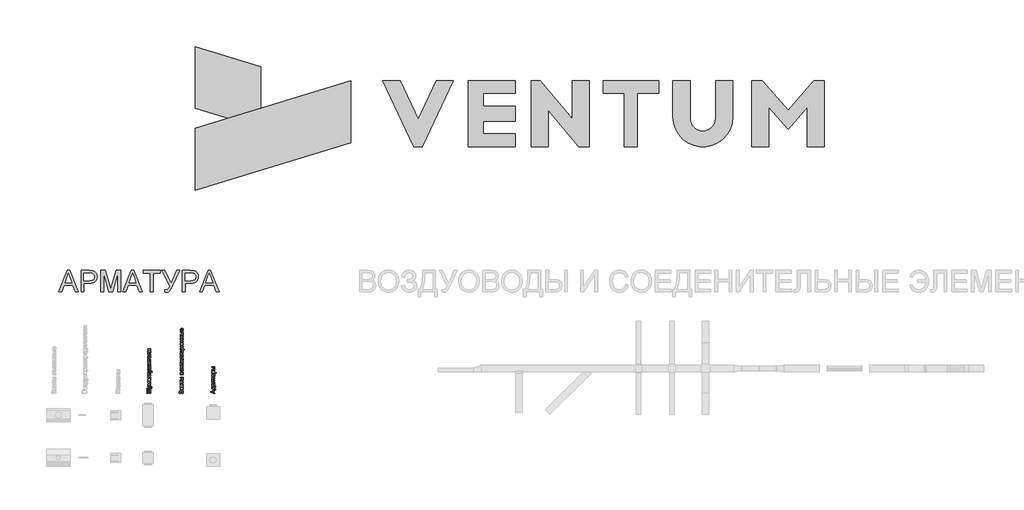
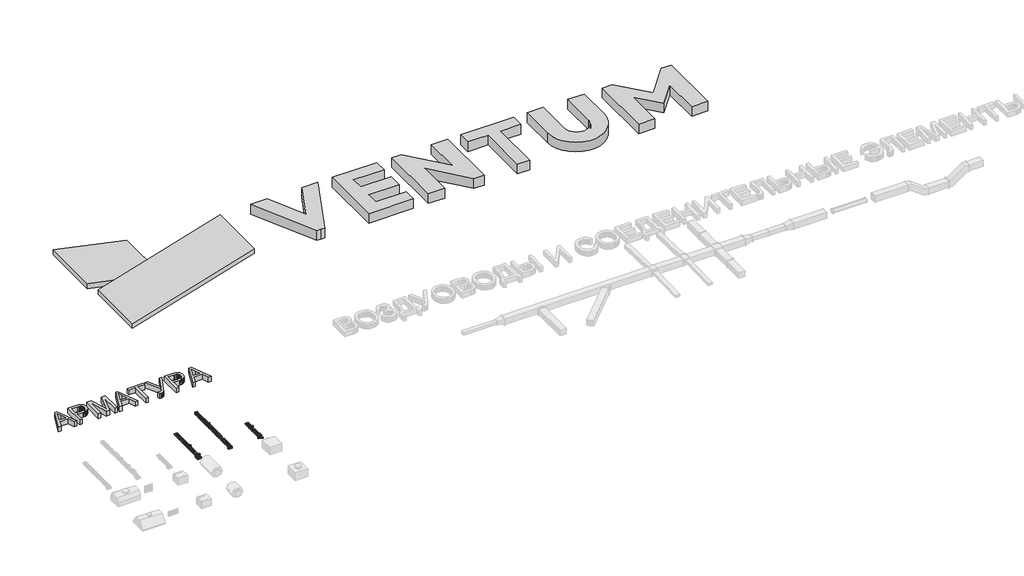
# One storey, part 7 of 8: 5 proxies.
"""IFC4 building model written with IfcOpenShell, lengths in millimetres."""

from ifc_helpers import new_model, si_unit, origin, origin_with_axes, place, context, project, spatial, polyline, outline, extrude, transform, mapped, element, save
from components import generic_models_62431cef

model = new_model("IFC4")

# Units and contexts
model_context = context("Model", 3, world=origin())
ifc_project = project(units=[si_unit("LENGTHUNIT", "METRE", prefix="MILLI")], contexts=[model_context])

# Site, building, storey
site = spatial("IfcSite", under=ifc_project)
building = spatial("IfcBuilding", under=site)
storey = spatial("IfcBuildingStorey", under=building, Name="Уровень 1", Elevation=0.0)

# Proxies
placement = place(None, origin())
element("IfcBuildingElementProxy", 1, Name="1000 мм Arial", ObjectType="1000 мм Arial", at=placement, inside=storey, context=model_context, shape_type="SweptSolid", body=[
    extrude(outline(polyline([(-67805.6436898, 36102.2722576), (-67404.652315, 37106.8353591), (-67297.7212818, 37106.8353591), (-66896.729907, 36102.2722576), (-67029.4126799, 36102.2722576), (-67144.4371171, 36416.1982268), (-67558.1817343, 36416.1982268), (-67672.9609168, 36102.2722576), (-67805.6436898, 36102.2722576)]), holes=[polyline([(-67512.0738576, 36541.7686145), (-67190.2997392, 36541.7686145), (-67280.79871, 36788.7400606), (-67351.1867984, 36981.2649714), (-67413.7267376, 36810.3224709), (-67512.0738576, 36541.7686145)])]), origin_with_axes(), (0.0, 0.0, 1.0), 250.0),
    extrude(outline(polyline([(-66762.5756061, 36102.2722576), (-66762.5756061, 37106.8353591), (-66390.279027, 37106.8353591), (-66303.5815035, 37104.4441261), (-66240.183173, 37097.2704272), (-66205.2420476, 37089.7365105), (-66173.2593067, 37079.3974936), (-66144.2349501, 37066.2533765), (-66118.1689779, 37050.3041591), (-66094.7854786, 37031.2202806), (-66073.8085406, 37008.67218), (-66055.2381641, 36982.6598573), (-66039.0743489, 36953.1833124), (-66025.9838813, 36921.2158999), (-66016.6335472, 36887.7309741), (-66011.0233468, 36852.7285351), (-66009.15328, 36816.2085829), (-66014.2039932, 36754.5423634), (-66029.3561329, 36697.8118941), (-66054.609699, 36646.0171748), (-66089.9646916, 36599.1582057), (-66112.2004757, 36578.3498804), (-66138.5021223, 36560.3159984), (-66168.8696314, 36545.0565598), (-66203.3030029, 36532.5715646), (-66241.8022369, 36522.8610128), (-66284.3673334, 36515.9249043), (-66381.6951138, 36510.3760175), (-66637.0052184, 36510.3760175), (-66637.0052184, 36102.2722576), (-66762.5756061, 36102.2722576)]), holes=[polyline([(-66637.0052184, 36635.9464052), (-66374.3374739, 36635.9464052), (-66313.943513, 36638.8281475), (-66262.9918567, 36647.4733744), (-66221.4825049, 36661.8820859), (-66189.4154576, 36682.054282), (-66165.4877995, 36707.453468), (-66148.3966152, 36737.5431496), (-66138.1419045, 36772.3233265), (-66134.7236677, 36811.7939989), (-66136.7393544, 36841.1019312), (-66142.7864147, 36868.2025715), (-66152.8648486, 36893.0959199), (-66166.9746559, 36915.7819762), (-66184.3647444, 36935.5249766), (-66204.2840216, 36951.5891571), (-66226.7324875, 36963.9745176), (-66251.7101421, 36972.6810581), (-66300.1479382, 36979.1189931), (-66377.2805298, 36981.2649714), (-66637.0052184, 36981.2649714), (-66637.0052184, 36635.9464052)])]), origin_with_axes(), (0.0, 0.0, 1.0), 250.0),
    extrude(outline(polyline([(-65836.4939969, 36102.2722576), (-65836.4939969, 37106.8353591), (-65620.4246384, 37106.8353591), (-65414.9012304, 36398.7851457), (-65373.4531923, 36250.8965836), (-65328.5715889, 36411.0478788), (-65126.4817462, 37106.8353591), (-64910.4123877, 37106.8353591), (-64910.4123877, 36102.2722576), (-65035.9827754, 36102.2722576), (-65035.9827754, 36981.2649714), (-65288.3498241, 36102.2722576), (-65458.5565605, 36102.2722576), (-65710.9236092, 36981.2649714), (-65710.9236092, 36102.2722576), (-65836.4939969, 36102.2722576)])), origin_with_axes(), (0.0, 0.0, 1.0), 250.0),
    extrude(outline(polyline([(-64807.6506837, 36102.2722576), (-64406.659309, 37106.8353591), (-64299.7282757, 37106.8353591), (-63898.736901, 36102.2722576), (-64031.4196739, 36102.2722576), (-64146.4441111, 36416.1982268), (-64560.1887283, 36416.1982268), (-64674.9679108, 36102.2722576), (-64807.6506837, 36102.2722576)]), holes=[polyline([(-64514.0808516, 36541.7686145), (-64192.3067331, 36541.7686145), (-64282.805704, 36788.7400606), (-64353.1937924, 36981.2649714), (-64415.7337315, 36810.3224709), (-64514.0808516, 36541.7686145)])]), origin_with_axes(), (0.0, 0.0, 1.0), 250.0),
    extrude(outline(polyline([(-63513.4418247, 36102.2722576), (-63513.4418247, 36981.2649714), (-63843.0640924, 36981.2649714), (-63843.0640924, 37106.8353591), (-63058.2491693, 37106.8353591), (-63058.2491693, 36981.2649714), (-63387.871437, 36981.2649714), (-63387.871437, 36102.2722576), (-63513.4418247, 36102.2722576)])), origin_with_axes(), (0.0, 0.0, 1.0), 250.0),
    extrude(outline(polyline([(-62987.6158263, 37106.8353591), (-62848.5564321, 37106.8353591), (-62548.1194694, 36511.8475455), (-62277.8488302, 37106.8353591), (-62140.0157094, 37106.8353591), (-62521.3867111, 36324.227728), (-62578.9602433, 36202.7040422), (-62603.4703812, 36160.9800926), (-62625.1294337, 36131.9480718), (-62647.554907, 36112.0977725), (-62674.3643074, 36097.9189873), (-62705.5576349, 36089.4117161), (-62741.1348895, 36086.5759591), (-62792.4544278, 36090.5000337), (-62854.1972894, 36102.2722576), (-62854.1972894, 36212.1463468), (-62755.35966, 36212.1463468), (-62734.8655672, 36213.8937863), (-62715.8123455, 36219.1361047), (-62698.199995, 36227.8733021), (-62682.0285156, 36240.1053784), (-62666.1942614, 36258.5454634), (-62649.5935864, 36285.9066868), (-62614.0929738, 36367.3925488), (-62987.6158263, 37106.8353591)])), origin_with_axes(), (0.0, 0.0, 1.0), 250.0),
    extrude(outline(polyline([(-62022.2934709, 36102.2722576), (-62022.2934709, 37106.8353591), (-61649.9968918, 37106.8353591), (-61563.2993683, 37104.4441261), (-61499.9010378, 37097.2704272), (-61464.9599124, 37089.7365105), (-61432.9771715, 37079.3974936), (-61403.9528149, 37066.2533765), (-61377.8868427, 37050.3041591), (-61354.5033434, 37031.2202806), (-61333.5264055, 37008.67218), (-61314.9560289, 36982.6598573), (-61298.7922137, 36953.1833124), (-61285.7017461, 36921.2158999), (-61276.351412, 36887.7309741), (-61270.7412116, 36852.7285351), (-61268.8711448, 36816.2085829), (-61273.921858, 36754.5423634), (-61289.0739977, 36697.8118941), (-61314.3275638, 36646.0171748), (-61349.6825564, 36599.1582057), (-61371.9183405, 36578.3498804), (-61398.2199872, 36560.3159984), (-61428.5874962, 36545.0565598), (-61463.0208678, 36532.5715646), (-61501.5201018, 36522.8610128), (-61544.0851982, 36515.9249043), (-61641.4129786, 36510.3760175), (-61896.7230832, 36510.3760175), (-61896.7230832, 36102.2722576), (-62022.2934709, 36102.2722576)]), holes=[polyline([(-61896.7230832, 36635.9464052), (-61634.0553387, 36635.9464052), (-61573.6613778, 36638.8281475), (-61522.7097215, 36647.4733744), (-61481.2003697, 36661.8820859), (-61449.1333224, 36682.054282), (-61425.2056643, 36707.453468), (-61408.11448, 36737.5431496), (-61397.8597694, 36772.3233265), (-61394.4415325, 36811.7939989), (-61396.4572193, 36841.1019312), (-61402.5042796, 36868.2025715), (-61412.5827134, 36893.0959199), (-61426.6925207, 36915.7819762), (-61444.0826092, 36935.5249766), (-61464.0018864, 36951.5891571), (-61486.4503523, 36963.9745176), (-61511.428007, 36972.6810581), (-61559.865803, 36979.1189931), (-61636.9983946, 36981.2649714), (-61896.7230832, 36981.2649714), (-61896.7230832, 36635.9464052)])]), origin_with_axes(), (0.0, 0.0, 1.0), 250.0),
    extrude(outline(polyline([(-61213.1983362, 36102.2722576), (-60812.2069615, 37106.8353591), (-60705.2759282, 37106.8353591), (-60304.2845535, 36102.2722576), (-60436.9673264, 36102.2722576), (-60551.9917635, 36416.1982268), (-60965.7363808, 36416.1982268), (-61080.5155633, 36102.2722576), (-61213.1983362, 36102.2722576)]), holes=[polyline([(-60919.6285041, 36541.7686145), (-60597.8543856, 36541.7686145), (-60688.3533564, 36788.7400606), (-60758.7414448, 36981.2649714), (-60821.281384, 36810.3224709), (-60919.6285041, 36541.7686145)])]), origin_with_axes(), (0.0, 0.0, 1.0), 250.0),
])
element("IfcBuildingElementProxy", 2, Name="200 мм Arial", ObjectType="200 мм Arial", at=placement, inside=storey, context=model_context, shape_type="SweptSolid", body=[
    extrude(outline(polyline([(-63697.81111, 31351.0580906), (-63697.81111, 31376.1721681), (-63522.0125673, 31376.1721681), (-63522.0125673, 31448.3751411), (-63697.81111, 31448.3751411), (-63697.81111, 31473.4892186), (-63522.0125673, 31473.4892186), (-63522.0125673, 31545.6921915), (-63697.81111, 31545.6921915), (-63697.81111, 31570.806269), (-63496.8984897, 31570.806269), (-63496.8984897, 31351.0580906), (-63697.81111, 31351.0580906)])), origin_with_axes(), (0.0, 0.0, 1.0), 50.0),
    extrude(outline(polyline([(-63440.3918153, 31608.4773854), (-63464.5739251, 31605.3381257), (-63462.3666331, 31618.0913682), (-63465.1380108, 31630.0107448), (-63472.8635327, 31637.3193338), (-63491.3557343, 31644.1864644), (-63497.43805, 31646.1485017), (-63644.4436953, 31592.7810869), (-63644.4436953, 31619.2685905), (-63562.5286377, 31647.5709787), (-63529.7626146, 31657.4302162), (-63558.7026649, 31667.2894537), (-63644.4436953, 31696.3766567), (-63644.4436953, 31722.6679567), (-63493.3668226, 31671.3116301), (-63460.6007996, 31657.9697764), (-63442.8934129, 31643.4016494), (-63437.2525556, 31623.8303273), (-63440.3918153, 31608.4773854)])), origin_with_axes(), (0.0, 0.0, 1.0), 50.0),
    extrude(outline(polyline([(-63644.4436953, 31743.4655521), (-63644.4436953, 31786.6794238), (-63526.3290494, 31819.9850071), (-63644.4436953, 31855.8902898), (-63644.4436953, 31897.289277), (-63496.8984897, 31897.289277), (-63496.8984897, 31872.1751995), (-63615.6998487, 31872.1751995), (-63496.8984897, 31836.073713), (-63496.8984897, 31803.1114863), (-63621.3897569, 31768.5796297), (-63496.8984897, 31768.5796297), (-63496.8984897, 31743.4655521), (-63644.4436953, 31743.4655521)])), origin_with_axes(), (0.0, 0.0, 1.0), 50.0),
    extrude(outline(polyline([(-63570.6710925, 31928.681874), (-63606.2452814, 31934.1142648), (-63620.0684474, 31940.9047532), (-63631.2489944, 31950.4114371), (-63643.4994648, 31970.546845), (-63647.582955, 31994.6553784), (-63642.6104167, 32021.0386488), (-63627.6928018, 32042.1121558), (-63604.0073326, 32055.9261247), (-63572.7312317, 32060.530781), (-63547.3596367, 32058.4951673), (-63528.045832, 32052.3883262), (-63513.5819382, 32042.3880673), (-63502.7600762, 32028.6722002), (-63496.0094416, 32012.3811592), (-63493.7592301, 31994.6553784), (-63498.7133743, 31967.9532769), (-63513.5758069, 31946.9042955), (-63537.7579167, 31933.2374793), (-63570.6710925, 31928.681874)]), holes=[polyline([(-63570.7201434, 31953.7959515), (-63547.9911675, 31956.7022193), (-63531.7982284, 31965.4210225), (-63522.1045378, 31978.542147), (-63518.8733076, 31994.6553784), (-63522.1229319, 32010.6950334), (-63531.8718048, 32023.7916324), (-63548.2793417, 32032.5104357), (-63571.5049584, 32035.4167035), (-63593.5717467, 32032.4920416), (-63609.5439567, 32023.718056), (-63619.2376472, 32010.6030629), (-63622.4688774, 31994.6553784), (-63619.24991, 31978.542147), (-63609.5930076, 31965.4210225), (-63593.4368566, 31956.7022193), (-63570.7201434, 31953.7959515)])]), origin_with_axes(), (0.0, 0.0, 1.0), 50.0),
    extrude(outline(polyline([(-63644.4436953, 32088.7841183), (-63644.4436953, 32170.4048703), (-63619.3296177, 32170.4048703), (-63619.3296177, 32113.8981958), (-63496.8984897, 32113.8981958), (-63496.8984897, 32088.7841183), (-63644.4436953, 32088.7841183)])), origin_with_axes(), (0.0, 0.0, 1.0), 50.0),
    extrude(outline(polyline([(-63644.4436953, 32201.7974672), (-63644.4436953, 32314.8108161), (-63497.0456425, 32314.8108161), (-63497.0456425, 32289.6967386), (-63619.3296177, 32289.6967386), (-63619.3296177, 32226.9115447), (-63548.9415293, 32226.9115447), (-63516.4698119, 32225.2192875), (-63502.7600762, 32215.9241358), (-63498.3638864, 32206.628984), (-63496.8984897, 32193.9493179), (-63498.173814, 32173.5441299), (-63522.0125673, 32173.5441299), (-63522.0125673, 32184.7767935), (-63523.5576717, 32196.1320845), (-63528.4627649, 32200.6692957), (-63550.3640064, 32201.7974672), (-63644.4436953, 32201.7974672)])), origin_with_axes(), (0.0, 0.0, 1.0), 50.0),
    extrude(outline(polyline([(-63440.3918153, 32352.4819324), (-63464.5739251, 32349.3426727), (-63462.3666331, 32362.0959152), (-63465.1380108, 32374.0152919), (-63472.8635327, 32381.3238808), (-63491.3557343, 32388.1910114), (-63497.43805, 32390.1530487), (-63644.4436953, 32336.7856339), (-63644.4436953, 32363.2731376), (-63562.5286377, 32391.5755258), (-63529.7626146, 32401.4347632), (-63558.7026649, 32411.2940007), (-63644.4436953, 32440.3812038), (-63644.4436953, 32466.6725037), (-63493.3668226, 32415.3161772), (-63460.6007996, 32401.9743235), (-63442.8934129, 32387.4061965), (-63437.2525556, 32367.8348743), (-63440.3918153, 32352.4819324)])), origin_with_axes(), (0.0, 0.0, 1.0), 50.0),
    extrude(outline(polyline([(-63644.4436953, 32487.4700992), (-63644.4436953, 32512.5841767), (-63522.0125673, 32512.5841767), (-63522.0125673, 32569.0908512), (-63644.4436953, 32569.0908512), (-63644.4436953, 32594.2049287), (-63522.0125673, 32594.2049287), (-63522.0125673, 32650.7116032), (-63644.4436953, 32650.7116032), (-63644.4436953, 32675.8256807), (-63496.8984897, 32675.8256807), (-63496.8984897, 32487.4700992), (-63644.4436953, 32487.4700992)])), origin_with_axes(), (0.0, 0.0, 1.0), 50.0),
    extrude(outline(polyline([(-63644.4436953, 32710.3575373), (-63644.4436953, 32735.4716148), (-63531.9208557, 32735.4716148), (-63644.4436953, 32797.1776882), (-63644.4436953, 32829.6494056), (-63496.8984897, 32829.6494056), (-63496.8984897, 32804.5353281), (-63608.7346163, 32804.5353281), (-63496.8984897, 32743.2216622), (-63496.8984897, 32710.3575373), (-63644.4436953, 32710.3575373)])), origin_with_axes(), (0.0, 0.0, 1.0), 50.0),
    extrude(outline(polyline([(-63644.4436953, 32854.7634831), (-63644.4436953, 32974.0553515), (-63619.3296177, 32974.0553515), (-63619.3296177, 32926.9664561), (-63496.8984897, 32926.9664561), (-63496.8984897, 32901.8523785), (-63619.3296177, 32901.8523785), (-63619.3296177, 32854.7634831), (-63644.4436953, 32854.7634831)])), origin_with_axes(), (0.0, 0.0, 1.0), 50.0),
    extrude(outline(polyline([(-63540.8481254, 33099.3314335), (-63537.7088657, 33123.9550018), (-63519.1553505, 33115.0829143), (-63505.2861992, 33100.9255889), (-63496.6409723, 33081.8018565), (-63493.7592301, 33058.0305482), (-63498.7317684, 33028.5632004), (-63513.6493833, 33005.8894068), (-63537.5433188, 32991.4316444), (-63569.4448192, 32986.6123902), (-63602.4193087, 32991.4806953), (-63627.0796651, 33006.0856105), (-63642.4571325, 33028.4528358), (-63647.582955, 33056.6080712), (-63642.4693952, 33083.8865211), (-63627.128716, 33105.6835293), (-63602.5174106, 33119.9757448), (-63569.591972, 33124.7398167), (-63562.8229433, 33124.5926639), (-63562.8229433, 33011.7264678), (-63544.0241733, 33016.0736067), (-63530.204073, 33026.1719674), (-63521.705999, 33040.7462258), (-63518.8733076, 33058.5210575), (-63524.1217574, 33083.1446258), (-63530.9275743, 33092.2926247), (-63540.8481254, 33099.3314335)]), holes=[polyline([(-63587.9370208, 33011.7264678), (-63587.9370208, 33099.6257391), (-63601.2052981, 33096.2289621), (-63610.6966536, 33089.5702979), (-63619.5258215, 33074.9285945), (-63622.4688774, 33056.5099693), (-63620.120564, 33039.5812662), (-63613.0756238, 33025.5833562), (-63602.0943463, 33015.8528775), (-63587.9370208, 33011.7264678)])]), origin_with_axes(), (0.0, 0.0, 1.0), 50.0),
    extrude(outline(polyline([(-63644.4436953, 33162.410933), (-63644.4436953, 33275.4242819), (-63497.0456425, 33275.4242819), (-63497.0456425, 33250.3102044), (-63619.3296177, 33250.3102044), (-63619.3296177, 33187.5250105), (-63548.9415293, 33187.5250105), (-63516.4698119, 33185.8327533), (-63502.7600762, 33176.5376016), (-63498.3638864, 33167.2424499), (-63496.8984897, 33154.5627838), (-63498.173814, 33134.1575958), (-63522.0125673, 33134.1575958), (-63522.0125673, 33145.3902593), (-63523.5576717, 33156.7455503), (-63528.4627649, 33161.2827615), (-63550.3640064, 33162.410933), (-63644.4436953, 33162.410933)])), origin_with_axes(), (0.0, 0.0, 1.0), 50.0),
    extrude(outline(polyline([(-63644.4436953, 33313.0953982), (-63644.4436953, 33338.2094757), (-63531.9208557, 33338.2094757), (-63644.4436953, 33399.9155491), (-63644.4436953, 33432.3872665), (-63496.8984897, 33432.3872665), (-63496.8984897, 33407.273189), (-63608.7346163, 33407.273189), (-63496.8984897, 33345.9595231), (-63496.8984897, 33313.0953982), (-63644.4436953, 33313.0953982)])), origin_with_axes(), (0.0, 0.0, 1.0), 50.0),
])
element("IfcBuildingElementProxy", 3, Name="200 мм Arial", ObjectType="200 мм Arial", at=placement, inside=storey, context=model_context, shape_type="SweptSolid", body=[
    extrude(outline(polyline([(-60493.7592301, 31332.2225324), (-60694.6718503, 31412.4208074), (-60694.6718503, 31433.807014), (-60493.7592301, 31514.005289), (-60493.7592301, 31487.4687344), (-60556.5444239, 31464.463847), (-60556.5444239, 31381.7149235), (-60493.7592301, 31358.759087), (-60493.7592301, 31332.2225324)]), holes=[polyline([(-60581.6585014, 31390.9364989), (-60581.6585014, 31455.2913226), (-60631.0527907, 31437.1915284), (-60669.5577728, 31423.1139107), (-60635.3692727, 31410.6059229), (-60581.6585014, 31390.9364989)])]), origin_with_axes(), (0.0, 0.0, 1.0), 50.0),
    extrude(outline(polyline([(-60641.3044356, 31559.6717073), (-60641.3044356, 31653.8494981), (-60518.8733076, 31653.8494981), (-60518.8733076, 31672.6850562), (-60452.9488541, 31672.6850562), (-60452.9488541, 31647.5709787), (-60493.7592301, 31647.5709787), (-60493.7592301, 31543.9754089), (-60452.9488541, 31543.9754089), (-60452.9488541, 31518.8613313), (-60518.8733076, 31518.8613313), (-60518.8733076, 31534.5576298), (-60539.4930934, 31545.968103), (-60566.7715434, 31553.9572737), (-60600.7086574, 31558.5251418), (-60641.3044356, 31559.6717073)]), holes=[polyline([(-60616.190358, 31581.6465252), (-60558.9724451, 31575.7604133), (-60518.8733076, 31562.810967), (-60518.8733076, 31628.7354206), (-60616.190358, 31628.7354206), (-60616.190358, 31581.6465252)])]), origin_with_axes(), (0.0, 0.0, 1.0), 50.0),
    extrude(outline(polyline([(-60512.5947882, 31795.1161842), (-60495.5741146, 31770.7623962), (-60490.6199704, 31743.8579596), (-60493.5998145, 31722.8702918), (-60502.539347, 31707.3885911), (-60516.1141926, 31697.8420534), (-60532.9999762, 31694.6598741), (-60552.8656039, 31699.4668655), (-60567.2865782, 31712.0974807), (-60575.5271348, 31729.68224), (-60579.3040567, 31751.4118032), (-60587.9370208, 31794.9690314), (-60593.5288271, 31795.1161842), (-60604.7369653, 31793.3871389), (-60612.0700797, 31788.2000027), (-60617.5147332, 31776.5994572), (-60619.3296177, 31760.4371748), (-60618.1217385, 31745.4766404), (-60614.4981009, 31735.0287917), (-60607.7965172, 31727.9041437), (-60597.3547999, 31722.9132113), (-60600.4940596, 31697.7991338), (-60625.0195259, 31708.6639154), (-60633.2723454, 31717.9222789), (-60639.3914492, 31730.5406314), (-60644.4436953, 31763.6745364), (-60639.9800604, 31794.1106401), (-60628.7719223, 31811.302992), (-60611.7267232, 31819.0039885), (-60589.7519053, 31820.2302618), (-60558.5064612, 31820.2302618), (-60514.8756566, 31821.505586), (-60493.7592301, 31826.5087812), (-60493.7592301, 31801.3947036), (-60512.5947882, 31795.1161842)]), holes=[polyline([(-60562.8229433, 31795.1161842), (-60555.1219468, 31754.6001138), (-60551.0507194, 31732.993178), (-60544.4288435, 31723.2075169), (-60534.7658098, 31719.7739516), (-60527.2978053, 31721.6440184), (-60521.1787014, 31727.2542189), (-60517.0952113, 31736.4819256), (-60515.7340479, 31749.2045112), (-60517.2362327, 31762.6935177), (-60521.7427872, 31774.6128944), (-60536.2863887, 31790.9959059), (-60555.710558, 31794.9690314), (-60562.8229433, 31795.1161842)])]), origin_with_axes(), (0.0, 0.0, 1.0), 50.0),
    extrude(outline(polyline([(-60641.3044356, 31854.7621184), (-60641.3044356, 31967.7754673), (-60493.7592301, 31967.7754673), (-60493.7592301, 31942.6613898), (-60616.190358, 31942.6613898), (-60616.190358, 31879.8761959), (-60493.7592301, 31879.8761959), (-60493.7592301, 31854.7621184), (-60641.3044356, 31854.7621184)])), origin_with_axes(), (0.0, 0.0, 1.0), 50.0),
    extrude(outline(polyline([(-60641.3044356, 31992.8895448), (-60641.3044356, 32112.1814132), (-60616.190358, 32112.1814132), (-60616.190358, 32065.0925178), (-60493.7592301, 32065.0925178), (-60493.7592301, 32039.9784402), (-60616.190358, 32039.9784402), (-60616.190358, 31992.8895448), (-60641.3044356, 31992.8895448)])), origin_with_axes(), (0.0, 0.0, 1.0), 50.0),
    extrude(outline(polyline([(-60537.7088657, 32237.4574952), (-60534.569606, 32262.0810635), (-60516.0160908, 32253.208976), (-60502.1469395, 32239.0516506), (-60493.5017127, 32219.9279182), (-60490.6199704, 32196.1566099), (-60495.5925087, 32166.6892621), (-60510.5101236, 32144.0154685), (-60534.4040592, 32129.5577061), (-60566.3055595, 32124.7384519), (-60599.280049, 32129.606757), (-60623.9404054, 32144.2116722), (-60639.3178728, 32166.5788975), (-60644.4436953, 32194.7341329), (-60639.3301355, 32222.0125828), (-60623.9894563, 32243.809591), (-60599.3781509, 32258.1018065), (-60566.4527123, 32262.8658784), (-60559.6836836, 32262.7187256), (-60559.6836836, 32149.8525295), (-60540.8849136, 32154.1996684), (-60527.0648133, 32164.2980291), (-60518.5667393, 32178.8722875), (-60515.7340479, 32196.6471192), (-60520.9824977, 32221.2706875), (-60527.7883146, 32230.4186864), (-60537.7088657, 32237.4574952)]), holes=[polyline([(-60584.7977611, 32149.8525295), (-60584.7977611, 32237.7518008), (-60598.0660384, 32234.3550238), (-60607.5573939, 32227.6963596), (-60616.3865618, 32213.0546562), (-60619.3296177, 32194.636031), (-60616.9813043, 32177.7073279), (-60609.9363641, 32163.7094179), (-60598.9550866, 32153.9789392), (-60584.7977611, 32149.8525295)])]), origin_with_axes(), (0.0, 0.0, 1.0), 50.0),
    extrude(outline(polyline([(-60437.2525556, 32287.9799559), (-60641.3044356, 32287.9799559), (-60641.3044356, 32313.0940335), (-60616.6808674, 32313.0940335), (-60637.5029883, 32330.4580636), (-60642.7085185, 32341.1511669), (-60644.4436953, 32353.9044094), (-60642.0156741, 32370.8882949), (-60634.7316106, 32385.7384648), (-60623.0329632, 32397.8295197), (-60607.3611902, 32406.5360602), (-60588.8567258, 32411.7967728), (-60568.6600043, 32413.5503436), (-60547.1818271, 32411.5699122), (-60527.9722556, 32405.628618), (-60512.006177, 32395.9165333), (-60500.2584786, 32382.6237305), (-60493.0295974, 32367.1420299), (-60490.6199704, 32350.8632516), (-60492.2325198, 32339.3178883), (-60497.070168, 32329.0110611), (-60513.3796031, 32313.0940335), (-60437.2525556, 32313.0940335), (-60437.2525556, 32287.9799559)]), holes=[polyline([(-60566.3546104, 32313.0940335), (-60543.8402323, 32315.8102288), (-60528.0948829, 32323.958815), (-60518.8242567, 32335.9824249), (-60515.7340479, 32350.3236914), (-60518.9346213, 32364.8979497), (-60528.5363413, 32377.2281279), (-60544.8580392, 32385.6342315), (-60568.2185459, 32388.4362661), (-60590.6102966, 32385.7016766), (-60606.5763752, 32377.4979081), (-60616.1413071, 32365.4926923), (-60619.3296177, 32351.3537609), (-60615.938972, 32337.1596473), (-60605.7670348, 32324.694579), (-60589.1326373, 32315.9941698), (-60566.3546104, 32313.0940335)])]), origin_with_axes(), (0.0, 0.0, 1.0), 50.0),
    extrude(outline(polyline([(-60641.3044356, 32441.8036808), (-60641.3044356, 32466.9177584), (-60587.9370208, 32466.9177584), (-60587.9370208, 32497.9669988), (-60584.7916298, 32524.8039903), (-60575.3554566, 32544.6880121), (-60560.3887907, 32556.9936649), (-60540.6519217, 32561.0955491), (-60522.6808862, 32557.6558525), (-60507.5180167, 32547.3367625), (-60497.1989267, 32529.4638289), (-60493.7592301, 32503.3626014), (-60493.7592301, 32441.8036808), (-60641.3044356, 32441.8036808)]), holes=[polyline([(-60518.8733076, 32466.9177584), (-60518.8733076, 32492.718549), (-60520.1915514, 32512.7190668), (-60524.1462829, 32526.0241323), (-60530.8969175, 32533.4921368), (-60540.6028708, 32535.9814716), (-60548.8066393, 32534.1359303), (-60556.0539146, 32528.5993062), (-60561.1306861, 32516.7596373), (-60562.8229433, 32496.0049615), (-60562.8229433, 32466.9177584), (-60518.8733076, 32466.9177584)])]), origin_with_axes(), (0.0, 0.0, 1.0), 50.0),
    extrude(outline(polyline([(-60641.3044356, 32579.9311073), (-60641.3044356, 32605.0451848), (-60493.7592301, 32605.0451848), (-60493.7592301, 32579.9311073), (-60641.3044356, 32579.9311073)])), origin_with_axes(), (0.0, 0.0, 1.0), 50.0),
])
element("IfcBuildingElementProxy", 4, Name="200 мм Arial", ObjectType="200 мм Arial", at=placement, inside=storey, context=model_context, shape_type="SweptSolid", body=[
    extrude(outline(polyline([(-62031.4303464, 31344.7795712), (-62037.7088657, 31369.8936488), (-62024.115626, 31375.1972808), (-62010.5101236, 31385.3201671), (-62000.3013982, 31399.8944255), (-61996.8984897, 31418.552174), (-61999.4552696, 31437.4551772), (-62007.1256092, 31451.8822827), (-62018.4134551, 31461.0241503), (-62031.8227538, 31464.0714395), (-62045.8697147, 31460.7421075), (-62056.7161022, 31450.7541113), (-62063.6506778, 31435.027156), (-62065.962203, 31414.4809466), (-62065.962203, 31401.2862457), (-62091.0762805, 31401.2862457), (-62093.1118942, 31429.7112612), (-62096.7294005, 31438.9757561), (-62103.5106919, 31447.0998168), (-62112.4440931, 31452.7651995), (-62122.5179284, 31454.6536604), (-62134.3453345, 31452.1398001), (-62144.5172717, 31444.5982192), (-62151.5254237, 31432.7646817), (-62153.8614744, 31417.3749516), (-62152.0649839, 31403.4628808), (-62146.6755127, 31391.7458393), (-62138.3184601, 31382.7695186), (-62127.6192254, 31377.0796104), (-62109.9118387, 31373.0329084), (-62116.190358, 31347.9188309), (-62143.6588804, 31355.7209949), (-62163.2792534, 31369.8568606), (-62175.0514773, 31390.3264279), (-62178.9755519, 31417.1296969), (-62174.8981931, 31442.9856698), (-62162.6661168, 31462.8696917), (-62144.9771242, 31475.5432264), (-62124.5290166, 31479.767738), (-62111.3128559, 31478.1245317), (-62099.6724565, 31473.194913), (-62089.6078182, 31464.9788818), (-62081.1189412, 31453.4764381), (-62074.6871376, 31467.4436911), (-62063.8284874, 31478.9338721), (-62049.4749582, 31486.6226058), (-62032.5585178, 31489.1855171), (-62008.7749468, 31484.2681611), (-61989.2220188, 31469.516093), (-61976.1438138, 31446.6460957), (-61971.7844122, 31417.3749516), (-61975.5122831, 31391.9052548), (-61986.6958957, 31371.3161258), (-62005.3352502, 31355.6075646), (-62031.4303464, 31344.7795712)])), origin_with_axes(), (0.0, 0.0, 1.0), 50.0),
    extrude(outline(polyline([(-62048.6962747, 31514.2995946), (-62084.2704636, 31519.7319854), (-62098.0936296, 31526.5224739), (-62109.2741765, 31536.0291578), (-62121.524647, 31556.1645656), (-62125.6081371, 31580.2730991), (-62120.6355988, 31606.6563695), (-62105.7179839, 31627.7298764), (-62082.0325148, 31641.5438454), (-62050.7564138, 31646.1485017), (-62025.3848189, 31644.112888), (-62006.0710142, 31638.0060468), (-61991.6071204, 31628.0057879), (-61980.7852584, 31614.2899209), (-61974.0346237, 31597.9988799), (-61971.7844122, 31580.2730991), (-61976.7385564, 31553.5709976), (-61991.600989, 31532.5220161), (-62015.7830988, 31518.8552), (-62048.6962747, 31514.2995946)]), holes=[polyline([(-62048.7453256, 31539.4136721), (-62026.0163497, 31542.3199399), (-62009.8234105, 31551.0387432), (-62000.1297199, 31564.1598677), (-61996.8984897, 31580.2730991), (-62000.148114, 31596.312754), (-62009.8969869, 31609.4093531), (-62026.3045239, 31618.1281564), (-62049.5301405, 31621.0344241), (-62071.5969289, 31618.1097623), (-62087.5691388, 31609.3357767), (-62097.2628294, 31596.2207835), (-62100.4940596, 31580.2730991), (-62097.2750921, 31564.1598677), (-62087.6181898, 31551.0387432), (-62071.4620388, 31542.3199399), (-62048.7453256, 31539.4136721)])]), origin_with_axes(), (0.0, 0.0, 1.0), 50.0),
    extrude(outline(polyline([(-62122.4688774, 31674.4018389), (-62122.4688774, 31699.5159164), (-62065.962203, 31699.5159164), (-62065.962203, 31765.44037), (-62122.4688774, 31765.44037), (-62122.4688774, 31790.5544475), (-61974.9236719, 31790.5544475), (-61974.9236719, 31765.44037), (-62040.8481254, 31765.44037), (-62040.8481254, 31699.5159164), (-61974.9236719, 31699.5159164), (-61974.9236719, 31674.4018389), (-62122.4688774, 31674.4018389)])), origin_with_axes(), (0.0, 0.0, 1.0), 50.0),
    extrude(outline(polyline([(-62122.4688774, 31815.668525), (-62122.4688774, 31934.9603933), (-62097.3547999, 31934.9603933), (-62097.3547999, 31887.871498), (-61974.9236719, 31887.871498), (-61974.9236719, 31862.7574204), (-62097.3547999, 31862.7574204), (-62097.3547999, 31815.668525), (-62122.4688774, 31815.668525)])), origin_with_axes(), (0.0, 0.0, 1.0), 50.0),
    extrude(outline(polyline([(-62122.4688774, 31956.9352112), (-62122.4688774, 31982.0492887), (-62069.1014627, 31982.0492887), (-62069.1014627, 32013.0985291), (-62065.9560716, 32039.9355207), (-62056.5198984, 32059.8195425), (-62041.5532326, 32072.1251952), (-62021.8163635, 32076.2270795), (-62003.8453281, 32072.7873828), (-61988.6824585, 32062.4682929), (-61978.3633686, 32044.5953593), (-61974.9236719, 32018.4941317), (-61974.9236719, 31956.9352112), (-62122.4688774, 31956.9352112)]), holes=[polyline([(-62000.0377494, 31982.0492887), (-62000.0377494, 32007.8500793), (-62001.3559933, 32027.8505971), (-62005.3107247, 32041.1556626), (-62012.0613593, 32048.6236671), (-62021.7673126, 32051.113002), (-62029.9710811, 32049.2674606), (-62037.2183564, 32043.7308366), (-62042.2951279, 32031.8911677), (-62043.9873851, 32011.1364918), (-62043.9873851, 31982.0492887), (-62000.0377494, 31982.0492887)])]), origin_with_axes(), (0.0, 0.0, 1.0), 50.0),
    extrude(outline(polyline([(-62122.4688774, 32095.0626376), (-62122.4688774, 32120.1767152), (-61974.9236719, 32120.1767152), (-61974.9236719, 32095.0626376), (-62122.4688774, 32095.0626376)])), origin_with_axes(), (0.0, 0.0, 1.0), 50.0),
    extrude(outline(polyline([(-62122.4688774, 32236.3293238), (-62122.4688774, 32291.6587759), (-62119.1088885, 32321.9967777), (-62106.7971044, 32339.0665023), (-62096.9562611, 32344.4191853), (-62085.3373214, 32346.203413), (-62067.8997148, 32341.8869309), (-62055.4653034, 32328.8884338), (-62050.2475104, 32338.1835855), (-62041.8536696, 32345.7619546), (-62030.9459684, 32350.801938), (-62018.1865945, 32352.4819324), (-61999.044468, 32348.226764), (-61985.5677243, 32338.1100091), (-61977.584685, 32322.0948796), (-61974.9236719, 32300.1445872), (-61974.9236719, 32236.3293238), (-62122.4688774, 32236.3293238)]), holes=[polyline([(-62065.962203, 32261.4434013), (-62065.962203, 32286.2631733), (-62067.2375272, 32306.7419377), (-62072.3388242, 32316.699277), (-62081.5603996, 32321.0893355), (-62089.0529295, 32319.1640864), (-62093.8721837, 32313.388339), (-62097.3547999, 32287.0479882), (-62097.3547999, 32261.4434013), (-62065.962203, 32261.4434013)]), polyline([(-62000.0377494, 32261.4434013), (-62000.0377494, 32292.2473871), (-62001.1720523, 32309.0350688), (-62004.5749607, 32319.5687566), (-62010.7615096, 32325.2218766), (-62020.2467337, 32327.3678549), (-62032.3377886, 32323.0758983), (-62039.3765975, 32311.8922856), (-62040.8481254, 32289.7948404), (-62040.8481254, 32261.4434013), (-62000.0377494, 32261.4434013)])]), origin_with_axes(), (0.0, 0.0, 1.0), 50.0),
    extrude(outline(polyline([(-62018.8733076, 32487.1757936), (-62015.7340479, 32511.7993618), (-61997.1805326, 32502.9272743), (-61983.3113814, 32488.7699489), (-61974.6661545, 32469.6462165), (-61971.7844122, 32445.8749082), (-61976.7569505, 32416.4075604), (-61991.6745654, 32393.7337668), (-62015.568501, 32379.2760044), (-62047.4700013, 32374.4567502), (-62080.4444908, 32379.3250553), (-62105.1048473, 32393.9299705), (-62120.4823147, 32416.2971958), (-62125.6081371, 32444.4524312), (-62120.4945774, 32471.7308811), (-62105.1538982, 32493.5278894), (-62080.5425927, 32507.8201049), (-62047.6171541, 32512.5841767), (-62040.8481254, 32512.4370239), (-62040.8481254, 32399.5708278), (-62022.0493555, 32403.9179667), (-62008.2292552, 32414.0163275), (-61999.7311811, 32428.5905858), (-61996.8984897, 32446.3654176), (-62002.1469395, 32470.9889858), (-62008.9527565, 32480.1369847), (-62018.8733076, 32487.1757936)]), holes=[polyline([(-62065.962203, 32399.5708278), (-62065.962203, 32487.4700992), (-62079.2304803, 32484.0733221), (-62088.7218357, 32477.414658), (-62097.5510036, 32462.7729546), (-62100.4940596, 32444.3543293), (-62098.1457462, 32427.4256262), (-62091.100806, 32413.4277163), (-62080.1195284, 32403.6972375), (-62065.962203, 32399.5708278)])]), origin_with_axes(), (0.0, 0.0, 1.0), 50.0),
    extrude(outline(polyline([(-62122.4688774, 32537.6982542), (-62122.4688774, 32562.8123318), (-62065.962203, 32562.8123318), (-62065.962203, 32628.7367853), (-62122.4688774, 32628.7367853), (-62122.4688774, 32653.8508629), (-61974.9236719, 32653.8508629), (-61974.9236719, 32628.7367853), (-62040.8481254, 32628.7367853), (-62040.8481254, 32562.8123318), (-61974.9236719, 32562.8123318), (-61974.9236719, 32537.6982542), (-62122.4688774, 32537.6982542)])), origin_with_axes(), (0.0, 0.0, 1.0), 50.0),
    extrude(outline(polyline([(-62122.4688774, 32678.9649404), (-62122.4688774, 32798.2568087), (-62097.3547999, 32798.2568087), (-62097.3547999, 32751.1679133), (-61974.9236719, 32751.1679133), (-61974.9236719, 32726.0538358), (-62097.3547999, 32726.0538358), (-62097.3547999, 32678.9649404), (-62122.4688774, 32678.9649404)])), origin_with_axes(), (0.0, 0.0, 1.0), 50.0),
    extrude(outline(polyline([(-62122.4688774, 32820.2316265), (-62122.4688774, 32845.3457041), (-62009.9460378, 32845.3457041), (-62122.4688774, 32907.0517774), (-62122.4688774, 32939.5234948), (-61974.9236719, 32939.5234948), (-61974.9236719, 32914.4094173), (-62086.7597984, 32914.4094173), (-61974.9236719, 32853.0957514), (-61974.9236719, 32820.2316265), (-62122.4688774, 32820.2316265)])), origin_with_axes(), (0.0, 0.0, 1.0), 50.0),
    extrude(outline(polyline([(-62122.4688774, 32989.7516499), (-62122.4688774, 33102.7649988), (-61975.0708247, 33102.7649988), (-61975.0708247, 33077.6509213), (-62097.3547999, 33077.6509213), (-62097.3547999, 33014.8657275), (-62026.9667115, 33014.8657275), (-61994.494994, 33013.1734703), (-61980.7852584, 33003.8783185), (-61976.3890685, 32994.5831668), (-61974.9236719, 32981.9035007), (-61976.1989961, 32961.4983127), (-62000.0377494, 32961.4983127), (-62000.0377494, 32972.7309763), (-62001.5828538, 32984.0862672), (-62006.4879471, 32988.6234785), (-62028.3891885, 32989.7516499), (-62122.4688774, 32989.7516499)])), origin_with_axes(), (0.0, 0.0, 1.0), 50.0),
    extrude(outline(polyline([(-62122.4688774, 33253.4494641), (-61974.9236719, 33253.4494641), (-61974.9236719, 33228.3353865), (-62031.4303464, 33228.3353865), (-62031.4303464, 33214.6501763), (-62028.2420357, 33196.0108219), (-62006.8067781, 33178.4996389), (-61974.9236719, 33158.4868584), (-61974.9236719, 33129.4487062), (-62015.2435386, 33154.6608856), (-62029.7135637, 33165.7954473), (-62036.1392359, 33176.0470923), (-62041.3999484, 33158.8792658), (-62051.394076, 33146.8127364), (-62064.6868787, 33139.6758257), (-62079.8436169, 33137.2968554), (-62097.0359688, 33140.5464797), (-62110.6476027, 33150.2953526), (-62119.5135587, 33166.2001175), (-62122.4688774, 33187.917418), (-62122.4688774, 33253.4494641)]), holes=[polyline([(-62097.3547999, 33228.3353865), (-62097.3547999, 33195.226007), (-62095.901666, 33178.1256255), (-62091.5422644, 33168.4196722), (-62077.9306305, 33162.410933), (-62068.3595673, 33164.6243563), (-62061.7192973, 33171.2646263), (-62057.8381422, 33183.5334909), (-62056.5444239, 33202.6326978), (-62056.5444239, 33228.3353865), (-62097.3547999, 33228.3353865)])]), origin_with_axes(), (0.0, 0.0, 1.0), 50.0),
    extrude(outline(polyline([(-62122.4688774, 33291.1205804), (-62122.4688774, 33316.2346579), (-62000.0377494, 33316.2346579), (-62000.0377494, 33388.4376308), (-62122.4688774, 33388.4376308), (-62122.4688774, 33413.5517084), (-62000.0377494, 33413.5517084), (-62000.0377494, 33429.2480068), (-61934.1132959, 33429.2480068), (-61934.1132959, 33404.1339293), (-61974.9236719, 33404.1339293), (-61974.9236719, 33291.1205804), (-62122.4688774, 33291.1205804)])), origin_with_axes(), (0.0, 0.0, 1.0), 50.0),
    extrude(outline(polyline([(-62122.4688774, 33451.2228247), (-62122.4688774, 33476.3369022), (-62009.9460378, 33476.3369022), (-62122.4688774, 33538.0429755), (-62122.4688774, 33570.514693), (-61974.9236719, 33570.514693), (-61974.9236719, 33545.4006154), (-62086.7597984, 33545.4006154), (-61974.9236719, 33484.0869496), (-61974.9236719, 33451.2228247), (-62122.4688774, 33451.2228247)])), origin_with_axes(), (0.0, 0.0, 1.0), 50.0),
    extrude(outline(polyline([(-62048.6962747, 33601.9072899), (-62084.2704636, 33607.3396807), (-62098.0936296, 33614.1301692), (-62109.2741765, 33623.6368531), (-62121.524647, 33643.7722609), (-62125.6081371, 33667.8807944), (-62120.6355988, 33694.2640648), (-62105.7179839, 33715.3375717), (-62082.0325148, 33729.1515407), (-62050.7564138, 33733.756197), (-62025.3848189, 33731.7205833), (-62006.0710142, 33725.6137421), (-61991.6071204, 33715.6134832), (-61980.7852584, 33701.8976162), (-61974.0346237, 33685.6065752), (-61971.7844122, 33667.8807944), (-61976.7385564, 33641.1786929), (-61991.600989, 33620.1297114), (-62015.7830988, 33606.4628953), (-62048.6962747, 33601.9072899)]), holes=[polyline([(-62048.7453256, 33627.0213674), (-62026.0163497, 33629.9276352), (-62009.8234105, 33638.6464385), (-62000.1297199, 33651.767563), (-61996.8984897, 33667.8807944), (-62000.148114, 33683.9204493), (-62009.8969869, 33697.0170484), (-62026.3045239, 33705.7358517), (-62049.5301405, 33708.6421194), (-62071.5969289, 33705.7174576), (-62087.5691388, 33696.943472), (-62097.2628294, 33683.8284788), (-62100.4940596, 33667.8807944), (-62097.2750921, 33651.767563), (-62087.6181898, 33638.6464385), (-62071.4620388, 33629.9276352), (-62048.7453256, 33627.0213674)])]), origin_with_axes(), (0.0, 0.0, 1.0), 50.0),
    extrude(outline(polyline([(-62122.4688774, 33762.0095342), (-62122.4688774, 33787.1236117), (-62065.962203, 33787.1236117), (-62065.962203, 33853.0480653), (-62122.4688774, 33853.0480653), (-62122.4688774, 33878.1621428), (-61974.9236719, 33878.1621428), (-61974.9236719, 33853.0480653), (-62040.8481254, 33853.0480653), (-62040.8481254, 33787.1236117), (-61974.9236719, 33787.1236117), (-61974.9236719, 33762.0095342), (-62122.4688774, 33762.0095342)])), origin_with_axes(), (0.0, 0.0, 1.0), 50.0),
    extrude(outline(polyline([(-62122.4688774, 33915.8332591), (-62122.4688774, 33940.9473366), (-62065.962203, 33940.9473366), (-62065.962203, 34006.8717902), (-62122.4688774, 34006.8717902), (-62122.4688774, 34031.9858677), (-61974.9236719, 34031.9858677), (-61974.9236719, 34006.8717902), (-62040.8481254, 34006.8717902), (-62040.8481254, 33940.9473366), (-61974.9236719, 33940.9473366), (-61974.9236719, 33915.8332591), (-62122.4688774, 33915.8332591)])), origin_with_axes(), (0.0, 0.0, 1.0), 50.0),
    extrude(outline(polyline([(-62122.4688774, 34069.656984), (-62122.4688774, 34094.7710616), (-62069.1014627, 34094.7710616), (-62069.1014627, 34125.820302), (-62065.9560716, 34152.6572935), (-62056.5198984, 34172.5413153), (-62041.5532326, 34184.8469681), (-62021.8163635, 34188.9488523), (-62003.8453281, 34185.5091557), (-61988.6824585, 34175.1900657), (-61978.3633686, 34157.3171321), (-61974.9236719, 34131.2159045), (-61974.9236719, 34069.656984), (-62122.4688774, 34069.656984)]), holes=[polyline([(-62000.0377494, 34094.7710616), (-62000.0377494, 34120.5718522), (-62001.3559933, 34140.57237), (-62005.3107247, 34153.8774355), (-62012.0613593, 34161.34544), (-62021.7673126, 34163.8347748), (-62029.9710811, 34161.9892334), (-62037.2183564, 34156.4526094), (-62042.2951279, 34144.6129405), (-62043.9873851, 34123.8582646), (-62043.9873851, 34094.7710616), (-62000.0377494, 34094.7710616)])]), origin_with_axes(), (0.0, 0.0, 1.0), 50.0),
    extrude(outline(polyline([(-62122.4688774, 34207.7844105), (-62122.4688774, 34232.898488), (-61974.9236719, 34232.898488), (-61974.9236719, 34207.7844105), (-62122.4688774, 34207.7844105)])), origin_with_axes(), (0.0, 0.0, 1.0), 50.0),
    extrude(outline(polyline([(-62018.8733076, 34373.8708686), (-62015.7340479, 34398.4944368), (-61997.1805326, 34389.6223493), (-61983.3113814, 34375.4650239), (-61974.6661545, 34356.3412915), (-61971.7844122, 34332.5699832), (-61976.7569505, 34303.1026354), (-61991.6745654, 34280.4288418), (-62015.568501, 34265.9710794), (-62047.4700013, 34261.1518252), (-62080.4444908, 34266.0201303), (-62105.1048473, 34280.6250455), (-62120.4823147, 34302.9922708), (-62125.6081371, 34331.1475062), (-62120.4945774, 34358.4259561), (-62105.1538982, 34380.2229643), (-62080.5425927, 34394.5151799), (-62047.6171541, 34399.2792517), (-62040.8481254, 34399.1320989), (-62040.8481254, 34286.2659028), (-62022.0493555, 34290.6130417), (-62008.2292552, 34300.7114025), (-61999.7311811, 34315.2856608), (-61996.8984897, 34333.0604926), (-62002.1469395, 34357.6840608), (-62008.9527565, 34366.8320597), (-62018.8733076, 34373.8708686)]), holes=[polyline([(-62065.962203, 34286.2659028), (-62065.962203, 34374.1651742), (-62079.2304803, 34370.7683971), (-62088.7218357, 34364.109733), (-62097.5510036, 34349.4680296), (-62100.4940596, 34331.0494043), (-62098.1457462, 34314.1207012), (-62091.100806, 34300.1227913), (-62080.1195284, 34290.3923125), (-62065.962203, 34286.2659028)])]), origin_with_axes(), (0.0, 0.0, 1.0), 50.0),
])
generic_models_shape = generic_models_62431cef(model_context)
element("IfcBuildingElementProxy", 5, Name="Ventum-logo_r2017_Big : Ventum-logo_r2017_Big", ObjectType="Ventum-logo_r2017_Big : Ventum-logo_r2017_Big", at=placement, inside=storey, context=model_context, shape_type="MappedRepresentation", body=[
    mapped(generic_models_shape, transform((-51945.7435417, 45990.4497594, 0.0), x_axis=(1.0, 0.0, 0.0), y_axis=(0.0, 0.0, -1.0), z_axis=(0.0, 1.0, 0.0))),
])

save(model, "model.ifc")
